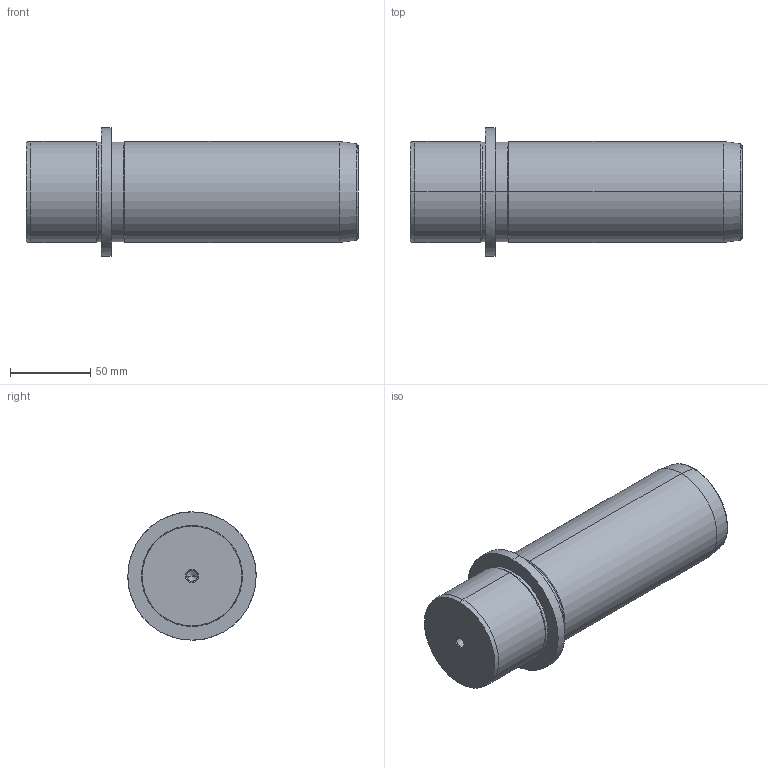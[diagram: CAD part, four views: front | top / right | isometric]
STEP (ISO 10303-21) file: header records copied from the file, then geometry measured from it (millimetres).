
FILE_DESCRIPTION(('CATIA V5 STEP Exchange'),'2;1');
FILE_NAME('C:\Users\Utente\Desktop\IO LAVORO\3D X SITO CF\X SITO\718\718-63x160.stp','2021-01-02T07:47:51+00:00',('none'),('none'),'CATIA Version 5 Release 20 GA (IN-10)','CATIA V5 STEP AP203','none');
FILE_SCHEMA(('CONFIG_CONTROL_DESIGN'));
Length unit declared in the file: millimetre
Products named in the file (1): 718-63x160
Bounding box: 207 x 80 x 80 mm (x, y, z)
Volume: 651995.1 mm3; surface area: 52083.1 mm2
Topology: 1 solids, 1 shells, 36 faces, 100 edges, 66 vertices
Faces by surface type: cone 16, cylinder 14, plane 4, torus 2
Entity records: 1291 total; most frequent: CARTESIAN_POINT 362, ORIENTED_EDGE 192, DIRECTION 157, EDGE_CURVE 96, AXIS2_PLACEMENT_3D 92, VERTEX_POINT 66, CIRCLE 55, EDGE_LOOP 40
